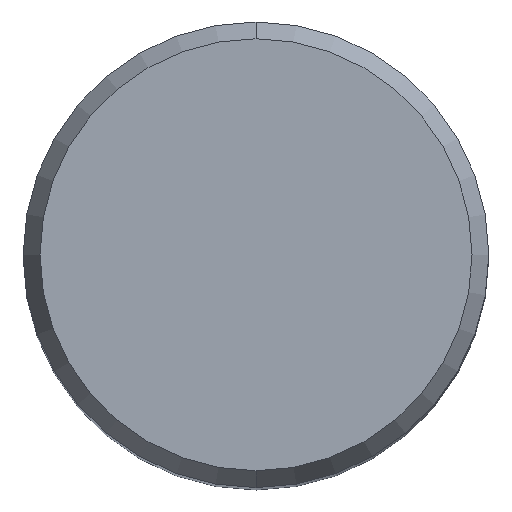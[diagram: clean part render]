
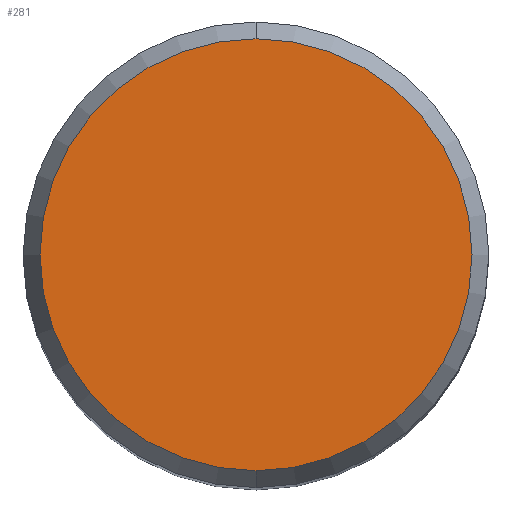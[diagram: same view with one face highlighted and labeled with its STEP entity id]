
A CAD part, top view. The second image highlights one B-rep face of the part: STEP entity #281.
In plain terms, the highlighted planar face has unit normal (0, 0, 1).
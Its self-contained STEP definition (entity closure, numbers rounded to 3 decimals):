
#259=VERTEX_POINT('',#559);
#281=ADVANCED_FACE('',(#583),#584,.T.);
#401=EDGE_CURVE('',#259,#429,#717,.T.);
#403=EDGE_CURVE('',#429,#259,#719,.T.);
#429=VERTEX_POINT('',#748);
#559=CARTESIAN_POINT('',(0.,-7.423,0.0));
#583=FACE_OUTER_BOUND('',#1000,.T.);
#584=PLANE('',#1001);
#717=CIRCLE('',#1326,7.423);
#719=CIRCLE('',#1329,7.423);
#748=CARTESIAN_POINT('',(0.0,7.423,0.0));
#1000=EDGE_LOOP('',(#1578,#1579));
#1001=AXIS2_PLACEMENT_3D('',#1580,#1581,#1582);
#1326=AXIS2_PLACEMENT_3D('',#1732,#1733,#1734);
#1329=AXIS2_PLACEMENT_3D('',#1735,#1736,#1737);
#1578=ORIENTED_EDGE('',*,*,#403,.F.);
#1579=ORIENTED_EDGE('',*,*,#401,.F.);
#1580=CARTESIAN_POINT('',(0.0,3.711,0.0));
#1581=DIRECTION('',(-0.0,0.0,1.0));
#1582=DIRECTION('',(0.0,-1.0,0.0));
#1732=CARTESIAN_POINT('',(0.0,0.0,0.0));
#1733=DIRECTION('',(0.0,0.0,-1.0));
#1734=DIRECTION('',(0.0,1.0,0.0));
#1735=CARTESIAN_POINT('',(0.0,0.0,0.0));
#1736=DIRECTION('',(0.0,0.0,-1.0));
#1737=DIRECTION('',(0.0,1.0,0.0));
